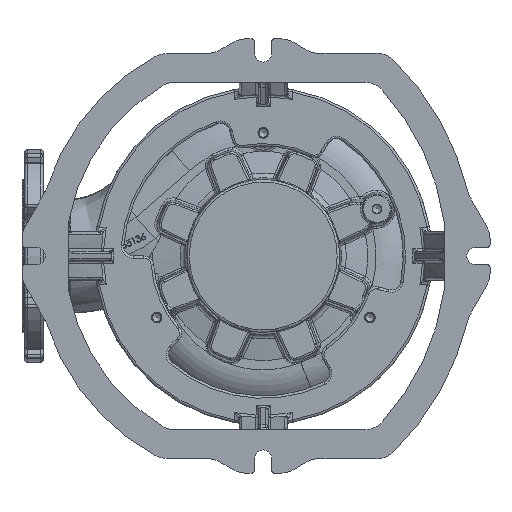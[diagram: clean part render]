
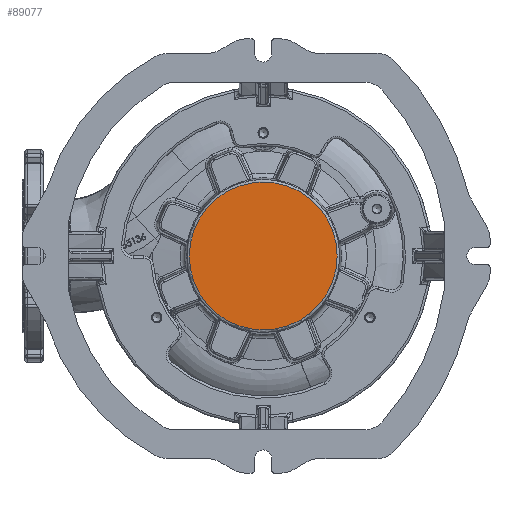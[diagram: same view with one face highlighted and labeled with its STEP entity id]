
A CAD part, front view. The second image highlights one B-rep face of the part: STEP entity #89077.
In plain terms, the highlighted planar face has unit normal (0, -1, 0).
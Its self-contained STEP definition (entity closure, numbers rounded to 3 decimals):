
#8002 = CIRCLE ( 'NONE', #92053, 76.628 ) ;
#14631 = PLANE ( 'NONE',  #64010 ) ;
#14909 = EDGE_LOOP ( 'NONE', ( #38723 ) ) ;
#17092 = DIRECTION ( 'NONE',  ( 0., 0., 1. ) ) ;
#18611 = VERTEX_POINT ( 'NONE', #43217 ) ;
#22176 = DIRECTION ( 'NONE',  ( 0., 0., 1. ) ) ;
#38723 = ORIENTED_EDGE ( 'NONE', *, *, #95540, .T. ) ;
#40301 = FACE_OUTER_BOUND ( 'NONE', #14909, .T. ) ;
#43217 = CARTESIAN_POINT ( 'NONE',  ( 0., 0., 76.628 ) ) ;
#48029 = DIRECTION ( 'NONE',  ( 0., -1., 0. ) ) ;
#58758 = DIRECTION ( 'NONE',  ( 0., -1., 0. ) ) ;
#62161 = CARTESIAN_POINT ( 'NONE',  ( 0., 0., 0. ) ) ;
#64010 = AXIS2_PLACEMENT_3D ( 'NONE', #67267, #58758, #22176 ) ;
#67267 = CARTESIAN_POINT ( 'NONE',  ( 0., 0., 0. ) ) ;
#89077 = ADVANCED_FACE ( 'NONE', ( #40301 ), #14631, .T. ) ;
#92053 = AXIS2_PLACEMENT_3D ( 'NONE', #62161, #48029, #17092 ) ;
#95540 = EDGE_CURVE ( 'NONE', #18611, #18611, #8002, .T. ) ;
